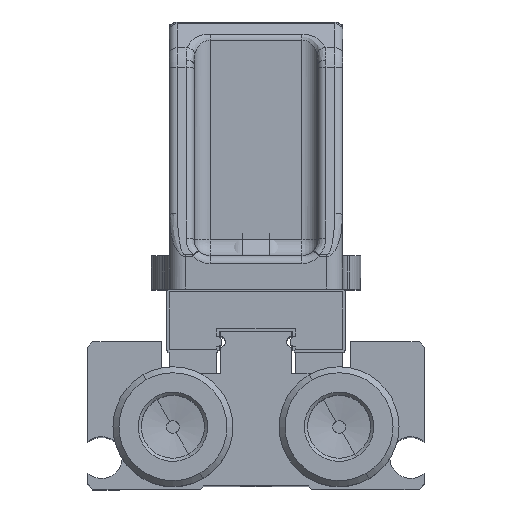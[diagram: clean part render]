
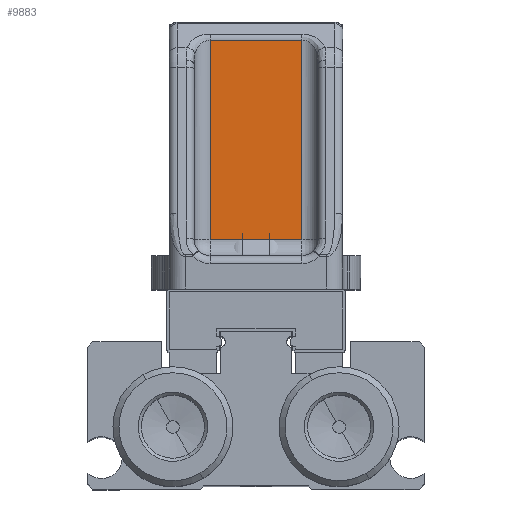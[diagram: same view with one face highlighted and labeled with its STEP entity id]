
A CAD part, top view. The second image highlights one B-rep face of the part: STEP entity #9883.
In plain terms, the highlighted planar face has unit normal (0, 0, 1) as drawn and (1, 0, 0) by its records, which use the part's own axes.
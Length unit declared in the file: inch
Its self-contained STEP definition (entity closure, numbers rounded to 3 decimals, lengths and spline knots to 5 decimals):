
#173 = FACE_OUTER_BOUND ( 'NONE', #10471, .T. ) ;
#524 = CARTESIAN_POINT ( 'NONE',  ( 0.27269, 0.2318, 0.125 ) ) ;
#1662 = CARTESIAN_POINT ( 'NONE',  ( 0.27269, -0.1718, 0.185 ) ) ;
#1849 = PLANE ( 'NONE',  #15355 ) ;
#2127 = EDGE_CURVE ( 'NONE', #17669, #9781, #16936, .T. ) ;
#3467 = DIRECTION ( 'NONE',  ( 0., 0., 1. ) ) ;
#3532 = VECTOR ( 'NONE', #3467, 39.37008 ) ;
#3865 = DIRECTION ( 'NONE',  ( 0., -1., 0. ) ) ;
#4969 = CARTESIAN_POINT ( 'NONE',  ( 0.27269, -0.1718, 0.125 ) ) ;
#5203 = CARTESIAN_POINT ( 'NONE',  ( 0.27269, 0.2318, 0.93175 ) ) ;
#5335 = EDGE_CURVE ( 'NONE', #13562, #17669, #16421, .T. ) ;
#5791 = EDGE_CURVE ( 'NONE', #9781, #17391, #14847, .T. ) ;
#7211 = VECTOR ( 'NONE', #14099, 39.37008 ) ;
#7226 = VECTOR ( 'NONE', #3865, 39.37008 ) ;
#7791 = ORIENTED_EDGE ( 'NONE', *, *, #5335, .T. ) ;
#9143 = ORIENTED_EDGE ( 'NONE', *, *, #2127, .T. ) ;
#9781 = VERTEX_POINT ( 'NONE', #1662 ) ;
#9883 = ADVANCED_FACE ( 'NONE', ( #173 ), #1849, .F. ) ;
#9953 = EDGE_CURVE ( 'NONE', #17391, #13562, #12087, .T. ) ;
#10471 = EDGE_LOOP ( 'NONE', ( #18576, #7791, #9143, #11929 ) ) ;
#10626 = CARTESIAN_POINT ( 'NONE',  ( 0.27269, 0.1718, 0.94596 ) ) ;
#11237 = CARTESIAN_POINT ( 'NONE',  ( 0.27269, -0.1718, 0.93175 ) ) ;
#11929 = ORIENTED_EDGE ( 'NONE', *, *, #5791, .T. ) ;
#12087 = LINE ( 'NONE', #10626, #3532 ) ;
#12520 = CARTESIAN_POINT ( 'NONE',  ( 0.27269, 0.2318, 0.185 ) ) ;
#12681 = VECTOR ( 'NONE', #17773, 39.37008 ) ;
#13562 = VERTEX_POINT ( 'NONE', #15787 ) ;
#14099 = DIRECTION ( 'NONE',  ( 0., 1., 0. ) ) ;
#14725 = DIRECTION ( 'NONE',  ( -1., 0., 0. ) ) ;
#14847 = LINE ( 'NONE', #12520, #7211 ) ;
#15355 = AXIS2_PLACEMENT_3D ( 'NONE', #524, #14725, #17668 ) ;
#15787 = CARTESIAN_POINT ( 'NONE',  ( 0.27269, 0.1718, 0.93175 ) ) ;
#15889 = CARTESIAN_POINT ( 'NONE',  ( 0.27269, 0.1718, 0.185 ) ) ;
#16421 = LINE ( 'NONE', #5203, #7226 ) ;
#16936 = LINE ( 'NONE', #4969, #12681 ) ;
#17391 = VERTEX_POINT ( 'NONE', #15889 ) ;
#17668 = DIRECTION ( 'NONE',  ( 0., 0., 1. ) ) ;
#17669 = VERTEX_POINT ( 'NONE', #11237 ) ;
#17773 = DIRECTION ( 'NONE',  ( 0., 0., -1. ) ) ;
#18576 = ORIENTED_EDGE ( 'NONE', *, *, #9953, .T. ) ;
